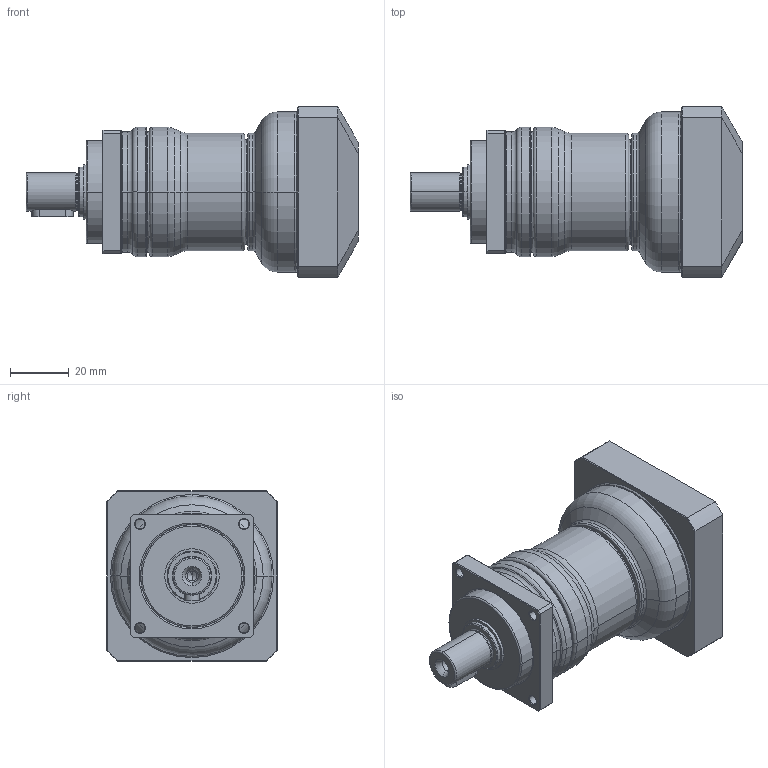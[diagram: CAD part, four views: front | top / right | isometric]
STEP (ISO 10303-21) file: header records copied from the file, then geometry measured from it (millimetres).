
FILE_DESCRIPTION((''),'2;1');
FILE_NAME('PA2-042_2ST_8-P0411100101_ASM','2016-05-06T',('d01943'),(''),'PRO/ENGINEER BY PARAMETRIC TECHNOLOGY CORPORATION, 2008410','PRO/ENGINEER BY PARAMETRIC TECHNOLOGY CORPORATION, 2008410','');
FILE_SCHEMA(('CONFIG_CONTROL_DESIGN'));
Length unit declared in the file: millimetre
Products named in the file (9): P1327100001; P0251100001; P1324100001; P0350100601; P0941100001; P0503100005; P0411100101; P1702300001; PA2-042_2ST_8-P0411100101_ASM
Assembly tree (8 placements, depth 2):
  PA2-042_2ST_8-P0411100101_ASM
    P1327100001
    P0251100001
    P1324100001
    P0350100601
    P0941100001
    P0503100005
    P0411100101
    P1702300001
Bounding box: 113 x 58 x 58 mm (x, y, z)
Volume: 123031.7 mm3; surface area: 48913.2 mm2
Topology: 8 solids, 8 shells, 470 faces, 1041 edges, 606 vertices
Faces by surface type: cone 140, cylinder 133, torus 94, plane 87, bspline 16
Entity records: 18103 total; most frequent: CARTESIAN_POINT 7399, DIRECTION 2416, ORIENTED_EDGE 2058, AXIS2_PLACEMENT_3D 1035, EDGE_CURVE 1029, VERTEX_POINT 606, CIRCLE 564, EDGE_LOOP 533
